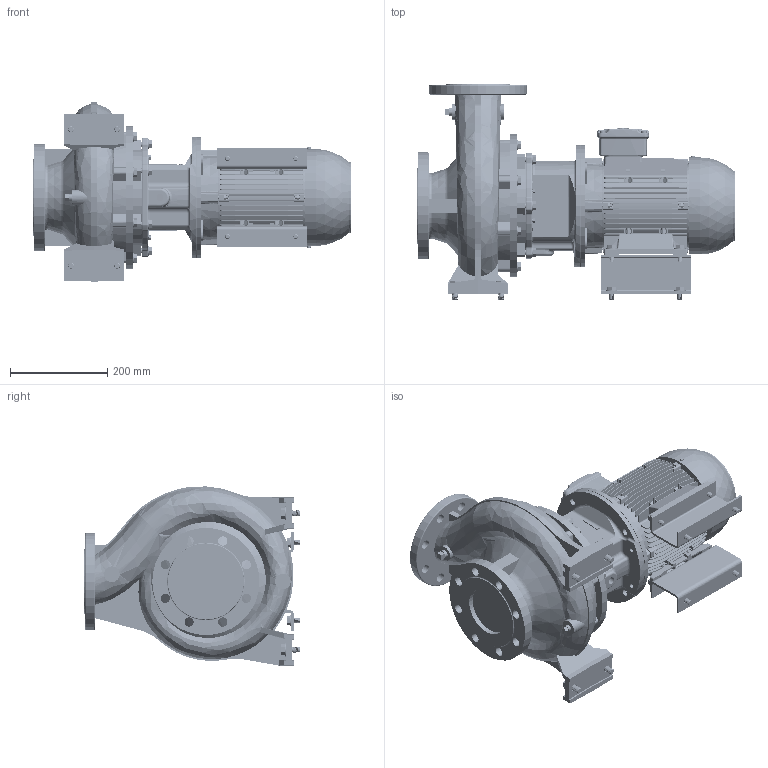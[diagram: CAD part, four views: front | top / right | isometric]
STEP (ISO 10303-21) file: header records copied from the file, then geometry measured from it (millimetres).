
FILE_DESCRIPTION (( 'STEP AP214' ), '1' );
FILE_NAME ('GSD4 80-200_3.0_(100L)_W21.STEP', '2026-07-01T02:13:37', ( '' ), ( '' ), 'SwSTEP 2.0', 'SolidWorks 2024', '' );
FILE_SCHEMA (( 'AUTOMOTIVE_DESIGN' ));
Length unit declared in the file: millimetre
Products named in the file (12): 100L ALIE3_W21T_B35; Parametric bolt and washer_SFT-A299B; 80-200-100L_ﾃﾞﾌｫﾙﾄ; GSD4 80-200_3.0_(100L)_W21; Parametric bolt_SFT-A299B; Parametric bolt_SFT-A249B; 140 x 80 - 271472220; Parametric Flat Washer_M12; Parametric Flat Washer_M10; Parametric bolt and washer_SFT-A253B; Parametric bolt_SFT-A253B; Parametric bolt and washer_SFT-A249B
Assembly tree (22 placements, depth 3):
  GSD4 80-200_3.0_(100L)_W21
    80-200-100L_ﾃﾞﾌｫﾙﾄ
    100L ALIE3_W21T_B35
    140 x 80 - 271472220  x2
    Parametric bolt and washer_SFT-A249B  x4
      Parametric bolt_SFT-A249B
      Parametric Flat Washer_M10
    Parametric bolt and washer_SFT-A253B  x4
      Parametric bolt_SFT-A253B
      Parametric Flat Washer_M10
    Parametric bolt and washer_SFT-A299B  x4
      Parametric bolt_SFT-A299B
      Parametric Flat Washer_M12
Bounding box: 652.1 x 443 x 367.65 mm (x, y, z)
Volume: 23335687.4 mm3; surface area: 1658460.1 mm2
Topology: 31 solids, 31 shells, 4383 faces, 11406 edges, 7333 vertices
Faces by surface type: plane 2395, cylinder 1164, torus 321, cone 243, bspline 242, sphere 18
Entity records: 190858 total; most frequent: CARTESIAN_POINT 98297, ORIENTED_EDGE 20062, DIRECTION 17872, EDGE_CURVE 10031, VERTEX_POINT 6453, LINE 6196, VECTOR 6196, AXIS2_PLACEMENT_3D 5838
